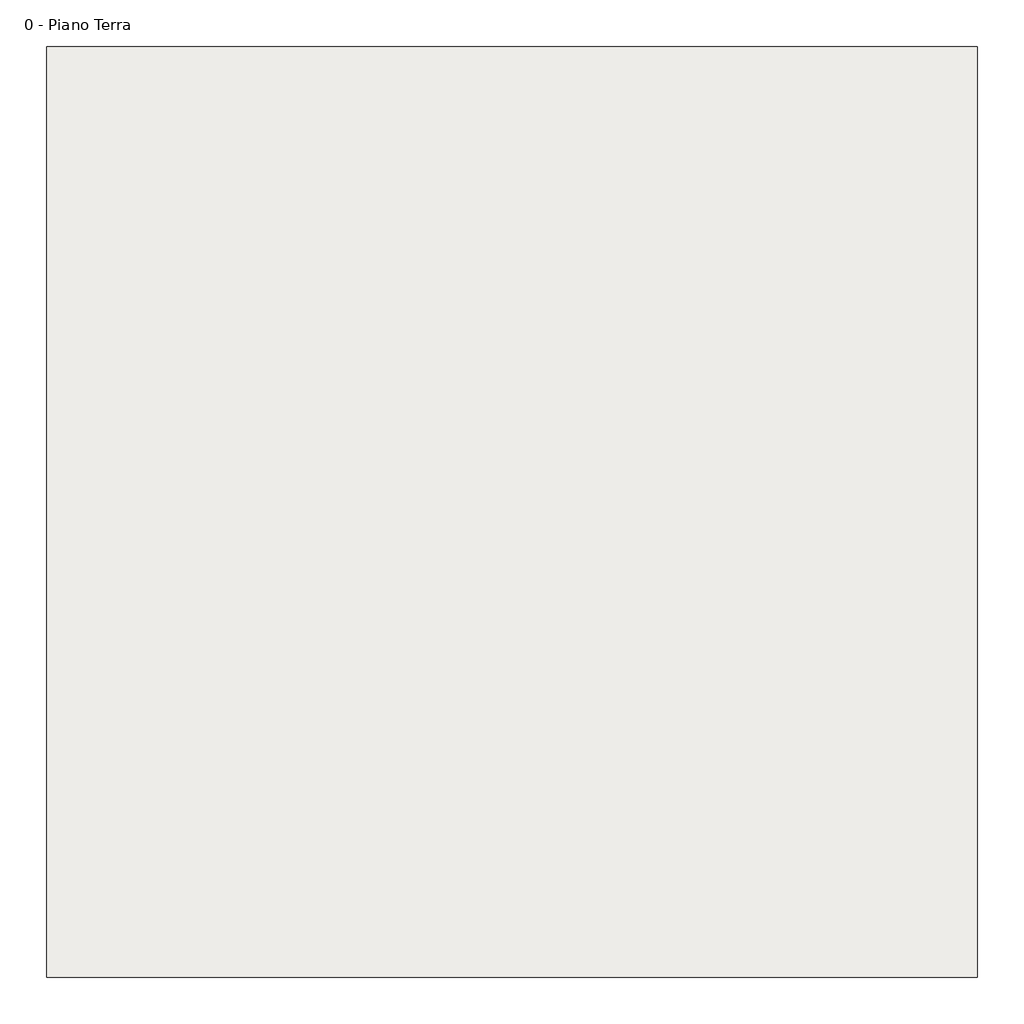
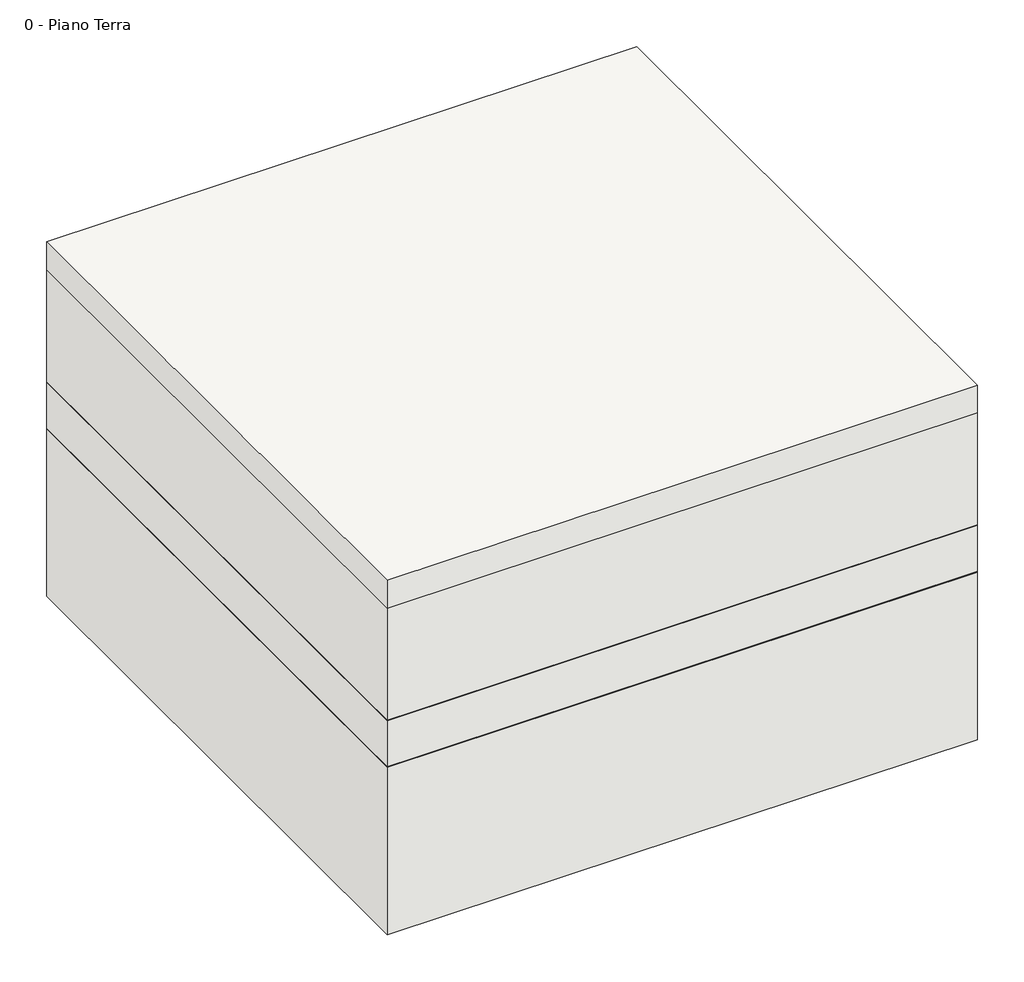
# One storey: 1 roof.
"""IFC4 building model written with IfcOpenShell, lengths in millimetres."""

import ifcopenshell
import ifcopenshell.guid

model = None  # the IFC model being written
_history = None  # IfcOwnerHistory: only IFC2X3 demands one
_inside = {}  # id of a spatial element -> (the spatial element, [elements in it])
_under = {}  # id of a project, library or spatial element -> (it, [spatial elements below it])
_declared = {}  # id of a project -> (the project, [libraries it declares])
_typed = {}  # id of a type object -> (the type object, [elements of that type])
_made_of = {}  # id of a material, layer set ... -> (it, [elements and type objects made of it])


def new_model(schema):
    """Start an empty IFC model of exactly this schema.

    Asked for "IFC4X3", IfcOpenShell would pick the latest addendum, in which some entities
    have other attributes; the version numbers below select the first issue.
    IFC2X3 requires an IfcOwnerHistory on every rooted entity: one is made here for all.
    """
    global model, _history
    if schema == "IFC4X3":
        model = ifcopenshell.file(schema_version=(4, 3, 0, 0))
    else:
        model = ifcopenshell.file(schema=schema)
    _inside.clear()
    _under.clear()
    _declared.clear()
    _typed.clear()
    _made_of.clear()
    _history = None
    if model.schema == "IFC2X3":
        org = make("IfcOrganization", Name="unknown")
        user = make(
            "IfcPersonAndOrganization",
            ThePerson=make("IfcPerson", FamilyName="unknown"),
            TheOrganization=org,
        )
        app = make(
            "IfcApplication",
            ApplicationDeveloper=org,
            Version="unknown",
            ApplicationFullName="unknown",
            ApplicationIdentifier="unknown",
        )
        _history = make(
            "IfcOwnerHistory",
            OwningUser=user,
            OwningApplication=app,
            ChangeAction="ADDED",
            CreationDate=0,
        )
    return model


def make(cls, **values):
    """One entity of the class cls with the attributes given. An attribute that is None is left unset."""
    return model.create_entity(
        cls, **{name: value for name, value in values.items() if value is not None}
    )


def rooted(cls, **values):
    """An entity with a GlobalId (a new one), such as an element, a storey or a relation."""
    return make(cls, GlobalId=ifcopenshell.guid.new(), OwnerHistory=_history, **values)


def si_unit(unit_type, name, prefix=None):
    """IfcSIUnit, for example si_unit("LENGTHUNIT", "METRE", prefix="MILLI")."""
    return make("IfcSIUnit", UnitType=unit_type, Prefix=prefix, Name=name)


def assignment(units):
    """IfcUnitAssignment: the units of a project."""
    return None if units is None else make("IfcUnitAssignment", Units=units)


def point(xyz):
    """IfcCartesianPoint."""
    return None if xyz is None else make("IfcCartesianPoint", Coordinates=xyz)


def direction(xyz):
    """IfcDirection."""
    return None if xyz is None else make("IfcDirection", DirectionRatios=xyz)


def frame(location, z_axis=None, x_axis=None):
    """IfcAxis2Placement3D, a coordinate frame: its origin and axes. An axis left out is left unset."""
    return make(
        "IfcAxis2Placement3D",
        Location=point(location),
        Axis=direction(z_axis),
        RefDirection=direction(x_axis),
    )


def origin():
    """The frame at (0, 0, 0) with its axes left unset."""
    return frame((0.0, 0.0, 0.0))


def place(relative_to, where):
    """IfcLocalPlacement: puts the frame where relative to a parent placement (None: the world)."""
    return make(
        "IfcLocalPlacement", PlacementRelTo=relative_to, RelativePlacement=where
    )


def context(
    kind, dimensions, precision=None, world=None, true_north=None, identifier=None
):
    """IfcGeometricRepresentationContext, for example the 3D "Model" context."""
    return make(
        "IfcGeometricRepresentationContext",
        ContextIdentifier=identifier,
        ContextType=kind,
        CoordinateSpaceDimension=dimensions,
        Precision=precision,
        WorldCoordinateSystem=world,
        TrueNorth=true_north,
    )


def project(units=None, contexts=None):
    """IfcProject with its units and contexts."""
    return rooted(
        "IfcProject",
        Name="project",
        RepresentationContexts=contexts,
        UnitsInContext=assignment(units),
    )


def spatial(cls, under=None, at=None, **own):
    """A site, building, storey or space (cls), placed at a placement, below another one or the project."""
    s = rooted(cls, ObjectPlacement=at, **own)
    if under is not None:
        _under.setdefault(under.id(), (under, []))[1].append(s)
    return s


def polyline(points):
    """IfcPolyline through the points."""
    return make("IfcPolyline", Points=[point(p) for p in points])


def outline(outer, holes=None, kind="AREA"):
    """IfcArbitraryClosedProfileDef: a profile drawn as a closed curve; with holes, ...WithVoids."""
    if holes is None:
        return make("IfcArbitraryClosedProfileDef", ProfileType=kind, OuterCurve=outer)
    return make(
        "IfcArbitraryProfileDefWithVoids",
        ProfileType=kind,
        OuterCurve=outer,
        InnerCurves=holes,
    )


def extrude(swept, where, along, depth):
    """IfcExtrudedAreaSolid: the profile swept, set in the frame where, extruded along a direction by depth."""
    return make(
        "IfcExtrudedAreaSolid",
        SweptArea=swept,
        Position=where,
        ExtrudedDirection=direction(along),
        Depth=depth,
    )


def shape(context_of_items, identifier, shape_type, items):
    """IfcShapeRepresentation: the items that make up one representation, for example the "Body"."""
    return make(
        "IfcShapeRepresentation",
        ContextOfItems=context_of_items,
        RepresentationIdentifier=identifier,
        RepresentationType=shape_type,
        Items=items,
    )


def made_of(thing, what):
    """Note that an element or type object is made of a material, layer set ...; save() writes the relation."""
    if what is not None:
        _made_of.setdefault(what.id(), (what, []))[1].append(thing)
    return thing


def element(
    cls,
    number,
    at=None,
    inside=None,
    cuts=None,
    type_object=None,
    material=None,
    context=None,
    identifier="Body",
    shape_type=None,
    held_by="IfcProductDefinitionShape",
    body=None,
    shapes=None,
    **own,
):
    """One element of the class cls, such as IfcWall. Its Tag is "e" and its number.

    at: its placement. inside: the storey or other place that contains it. cuts: it is an
    opening in that element (IfcRelVoidsElement). A single representation is given by context,
    identifier, shape_type and body (its items); several are given by shapes. held_by: the class
    of the entity that holds the representations. save() writes the other relations.
    """
    e = rooted(cls, Tag="e%d" % number, ObjectPlacement=at, **own)
    if body is not None:
        shapes = [shape(context, identifier, shape_type, body)]
    if shapes is not None:
        e.Representation = make(held_by, Representations=shapes)
    if inside is not None:
        _inside.setdefault(inside.id(), (inside, []))[1].append(e)
    if cuts is not None:
        rooted(
            "IfcRelVoidsElement", RelatingBuildingElement=cuts, RelatedOpeningElement=e
        )
    if type_object is not None:
        _typed.setdefault(type_object.id(), (type_object, []))[1].append(e)
    return made_of(e, material)


def aggregate(whole, parts):
    """IfcRelAggregates: a whole, such as a stair, and the parts it consists of."""
    return rooted("IfcRelAggregates", RelatingObject=whole, RelatedObjects=parts)


def save(model, path):
    """Write the relations noted so far, then the file.

    IfcRelAggregates (storeys below a building ...), IfcRelContainedInSpatialStructure (elements
    in a storey), IfcRelDefinesByType, IfcRelAssociatesMaterial and IfcRelDeclares: one each for
    every whole, place, type object, material and project.
    """
    for whole, parts in _under.values():
        aggregate(whole, parts)
    for where, things in _inside.values():
        rooted(
            "IfcRelContainedInSpatialStructure",
            RelatedElements=things,
            RelatingStructure=where,
        )
    for kind, things in _typed.values():
        rooted("IfcRelDefinesByType", RelatedObjects=things, RelatingType=kind)
    for what, things in _made_of.values():
        rooted("IfcRelAssociatesMaterial", RelatedObjects=things, RelatingMaterial=what)
    for by, libraries in _declared.values():
        rooted("IfcRelDeclares", RelatingContext=by, RelatedDefinitions=libraries)
    model.write(path)


model = new_model("IFC4")

# Units and contexts
model_context = context("Model", 3, world=origin())
ifc_project = project(units=[si_unit("LENGTHUNIT", "METRE", prefix="MILLI")], contexts=[model_context])

# Site, building, storey
site = spatial("IfcSite", under=ifc_project)
building = spatial("IfcBuilding", under=site)
storey = spatial("IfcBuildingStorey", under=building, Name="0 - Piano Terra", Elevation=0.0)

# Roof
placement = place(None, origin())
element("IfcRoof", 1, ObjectType="DAKU_INTENSIVO PLUS", at=placement, inside=storey, context=model_context, shape_type="SweptSolid", body=[
    extrude(outline(polyline([(-577.9721405, 368.8308162), (422.0278595, 368.8308162), (422.0278595, -631.1691838), (-577.9721405, -631.1691838), (-577.9721405, 368.8308162)])), frame((0.0, 0.0, 155.0), z_axis=(0.0, 0.0, 1.0), x_axis=(1.0, 0.0, 0.0)), (0.0, 0.0, 1.0), 50.0),
    extrude(outline(polyline([(-577.9721405, 368.8308162), (422.0278595, 368.8308162), (422.0278595, -631.1691838), (-577.9721405, -631.1691838), (-577.9721405, 368.8308162)])), frame((0.0, 0.0, -45.0), z_axis=(0.0, 0.0, 1.0), x_axis=(1.0, 0.0, 0.0)), (0.0, 0.0, 1.0), 200.0),
    extrude(outline(polyline([(-577.9721405, 368.8308162), (422.0278595, 368.8308162), (422.0278595, -631.1691838), (-577.9721405, -631.1691838), (-577.9721405, 368.8308162)])), frame((0.0, 0.0, -46.3), z_axis=(0.0, 0.0, 1.0), x_axis=(1.0, 0.0, 0.0)), (0.0, 0.0, 1.0), 1.3),
    extrude(outline(polyline([(-577.9721405, 368.8308162), (422.0278595, 368.8308162), (422.0278595, -631.1691838), (-577.9721405, -631.1691838), (-577.9721405, 368.8308162)])), frame((0.0, 0.0, -128.3), z_axis=(0.0, 0.0, 1.0), x_axis=(1.0, 0.0, 0.0)), (0.0, 0.0, 1.0), 82.0),
    extrude(outline(polyline([(-577.9721405, 368.8308162), (422.0278595, 368.8308162), (422.0278595, -631.1691838), (-577.9721405, -631.1691838), (-577.9721405, 368.8308162)])), frame((0.0, 0.0, -130.0), z_axis=(0.0, 0.0, 1.0), x_axis=(1.0, 0.0, 0.0)), (0.0, 0.0, 1.0), 1.7),
    extrude(outline(polyline([(-577.9721405, 368.8308162), (422.0278595, 368.8308162), (422.0278595, -631.1691838), (-577.9721405, -631.1691838), (-577.9721405, 368.8308162)])), frame((0.0, 0.0, -430.0), z_axis=(0.0, 0.0, 1.0), x_axis=(1.0, 0.0, 0.0)), (0.0, 0.0, 1.0), 300.0),
])

save(model, "model.ifc")
